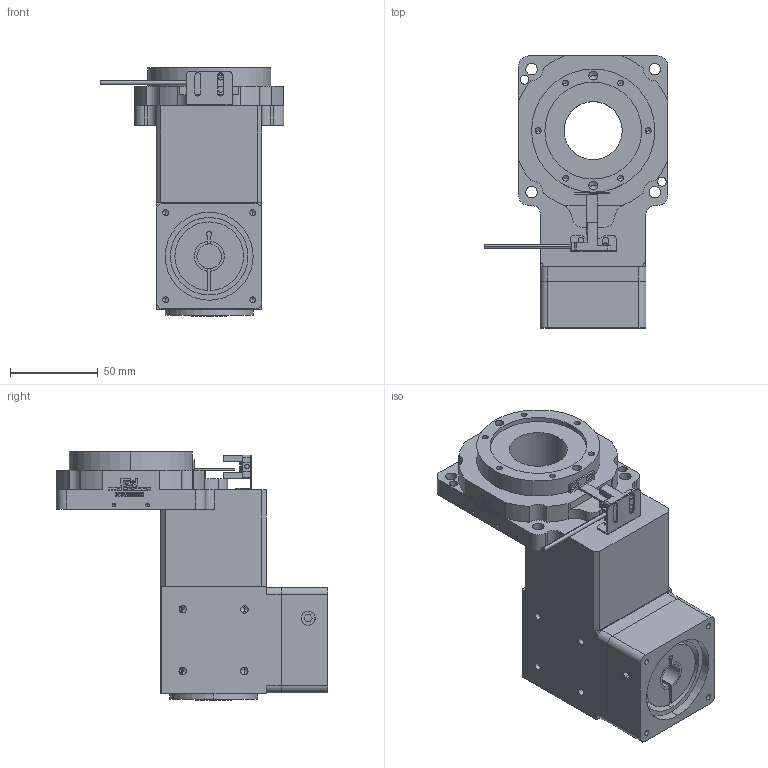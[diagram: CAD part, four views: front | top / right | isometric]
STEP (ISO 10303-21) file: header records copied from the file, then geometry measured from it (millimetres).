
FILE_DESCRIPTION (( 'STEP AP214' ), '1' );
FILE_NAME ('GT85-C-5-Z-14-50-70-M4-2.STEP', '2024-07-08T01:54:50', ( '' ), ( '' ), 'SwSTEP 2.0', 'SolidWorks 2021', '' );
FILE_SCHEMA (( 'AUTOMOTIVE_DESIGN' ));
Length unit declared in the file: millimetre
Products named in the file (1): GT85-C-5-Z-14-50-70-M4-2
Bounding box: 104.55 x 154.5 x 141 mm (x, y, z)
Volume: 657612.4 mm3; surface area: 101457.3 mm2
Topology: 6 solids, 8 shells, 977 faces, 2609 edges, 1679 vertices
Faces by surface type: plane 619, cylinder 221, cone 78, bspline 57, torus 2
Entity records: 36414 total; most frequent: CARTESIAN_POINT 7085, ORIENTED_EDGE 5086, DIRECTION 4641, EDGE_CURVE 2543, LINE 1885, VECTOR 1885, VERTEX_POINT 1679, AXIS2_PLACEMENT_3D 1378
